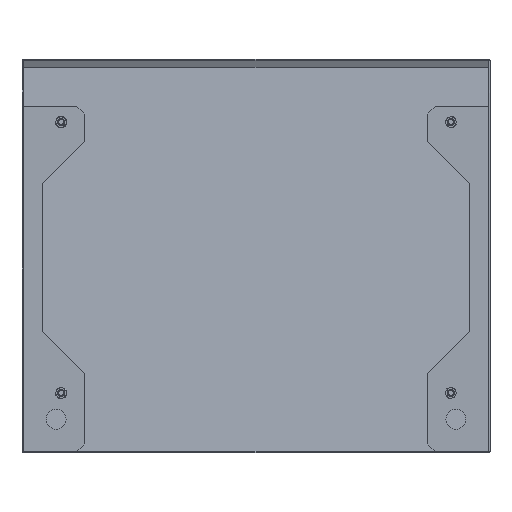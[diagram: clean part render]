
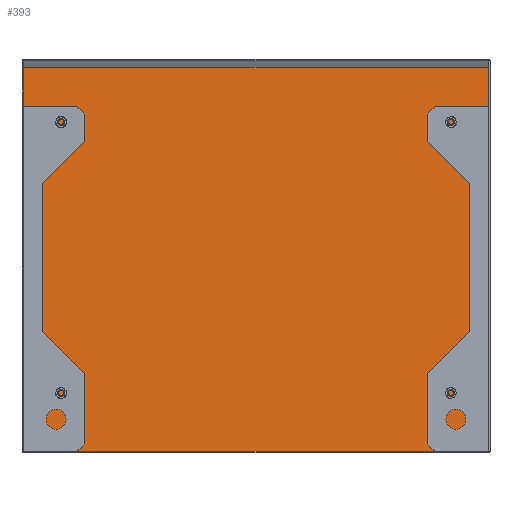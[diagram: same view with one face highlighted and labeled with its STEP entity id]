
A CAD part, front view. The second image highlights one B-rep face of the part: STEP entity #393.
In plain terms, the highlighted planar face has unit normal (0, -0.998, 0.065).
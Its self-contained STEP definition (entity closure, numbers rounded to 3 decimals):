
#249 = EDGE_CURVE ( 'NONE', #2613, #2615, #3274, .T. ) ;
#250 = EDGE_CURVE ( 'NONE', #2615, #2614, #3277, .T. ) ;
#251 = EDGE_CURVE ( 'NONE', #2612, #2613, #3280, .T. ) ;
#252 = EDGE_CURVE ( 'NONE', #2614, #2612, #3283, .T. ) ;
#393 = ADVANCED_FACE ( 'NONE', ( #960 ), #3680, .F. ) ;
#954 = AXIS2_PLACEMENT_3D ( 'NONE', #3681, #3682, #3683 ) ;
#960 = FACE_OUTER_BOUND ( 'NONE', #2849, .T. ) ;
#1152 = VECTOR ( 'NONE', #3285, 1000. ) ;
#1154 = VECTOR ( 'NONE', #3282, 1000. ) ;
#1155 = VECTOR ( 'NONE', #3279, 1000. ) ;
#1156 = VECTOR ( 'NONE', #3276, 1000. ) ;
#1717 = CARTESIAN_POINT ( 'NONE',  ( -2., 57.441, 502.165 ) ) ;
#1718 = CARTESIAN_POINT ( 'NONE',  ( -2., 24.925, 1.961 ) ) ;
#1719 = CARTESIAN_POINT ( 'NONE',  ( -608., 57.441, 502.165 ) ) ;
#1720 = CARTESIAN_POINT ( 'NONE',  ( -608., 24.925, 1.961 ) ) ;
#2278 = ORIENTED_EDGE ( 'NONE', *, *, #252, .F. ) ;
#2279 = ORIENTED_EDGE ( 'NONE', *, *, #249, .F. ) ;
#2280 = ORIENTED_EDGE ( 'NONE', *, *, #251, .F. ) ;
#2281 = ORIENTED_EDGE ( 'NONE', *, *, #250, .F. ) ;
#2612 = VERTEX_POINT ( 'NONE', #1717 ) ;
#2613 = VERTEX_POINT ( 'NONE', #1718 ) ;
#2614 = VERTEX_POINT ( 'NONE', #1719 ) ;
#2615 = VERTEX_POINT ( 'NONE', #1720 ) ;
#2849 = EDGE_LOOP ( 'NONE', ( #2281, #2279, #2280, #2278 ) ) ;
#3274 = LINE ( 'NONE', #3275, #1156 ) ;
#3275 = CARTESIAN_POINT ( 'NONE',  ( -610., 24.925, 1.961 ) ) ;
#3276 = DIRECTION ( 'NONE',  ( -1., 0., 0. ) ) ;
#3277 = LINE ( 'NONE', #3278, #1155 ) ;
#3278 = CARTESIAN_POINT ( 'NONE',  ( -608., 57.556, 503.931 ) ) ;
#3279 = DIRECTION ( 'NONE',  ( 0., 0.065, 0.998 ) ) ;
#3280 = LINE ( 'NONE', #3281, #1154 ) ;
#3281 = CARTESIAN_POINT ( 'NONE',  ( -2., 57.556, 503.931 ) ) ;
#3282 = DIRECTION ( 'NONE',  ( 0., -0.065, -0.998 ) ) ;
#3283 = LINE ( 'NONE', #3284, #1152 ) ;
#3284 = CARTESIAN_POINT ( 'NONE',  ( -610., 57.441, 502.165 ) ) ;
#3285 = DIRECTION ( 'NONE',  ( 1., 0., 0. ) ) ;
#3680 = PLANE ( 'NONE',  #954 ) ;
#3681 = CARTESIAN_POINT ( 'NONE',  ( -610., 57.556, 503.931 ) ) ;
#3682 = DIRECTION ( 'NONE',  ( 0., 0.998, -0.065 ) ) ;
#3683 = DIRECTION ( 'NONE',  ( 0., 0.065, 0.998 ) ) ;
